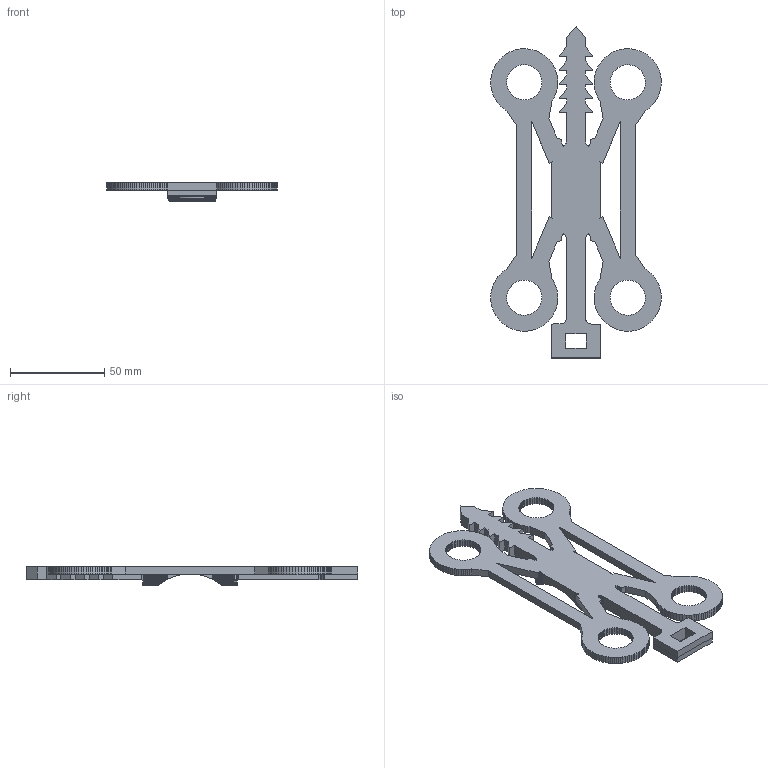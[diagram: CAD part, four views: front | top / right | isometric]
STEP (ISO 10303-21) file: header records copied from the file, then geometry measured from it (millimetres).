
FILE_DESCRIPTION(('Open CASCADE Model'),'2;1');
FILE_NAME('Open CASCADE Shape Model','2026-11-15T17:56:08',('Author'),( 'Open CASCADE'),'Open CASCADE STEP processor 7.9','Open CASCADE 7.9' ,'Unknown');
FILE_SCHEMA(('AUTOMOTIVE_DESIGN { 1 0 10303 214 1 1 1 1 }'));
Products named in the file (1): Open CASCADE STEP translator 7.9 1
Bounding box: 90.38 x 175.86 x 10 mm (x, y, z)
Volume: 39360.3 mm3; surface area: 23606.9 mm2
Topology: 1 solids, 1 shells, 1215 faces, 3656 edges, 2441 vertices
Faces by surface type: plane 1214, extrusion 1
Entity records: 86875 total; most frequent: CARTESIAN_POINT 18358, DIRECTION 11090, VECTOR 8653, LINE 8652, ORIENTED_EDGE 7312, PCURVE 7312, DEFINITIONAL_REPRESENTATION 7312, EDGE_CURVE 3656
